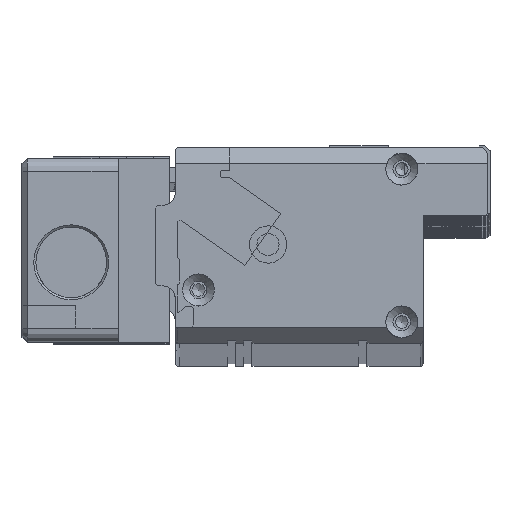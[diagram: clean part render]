
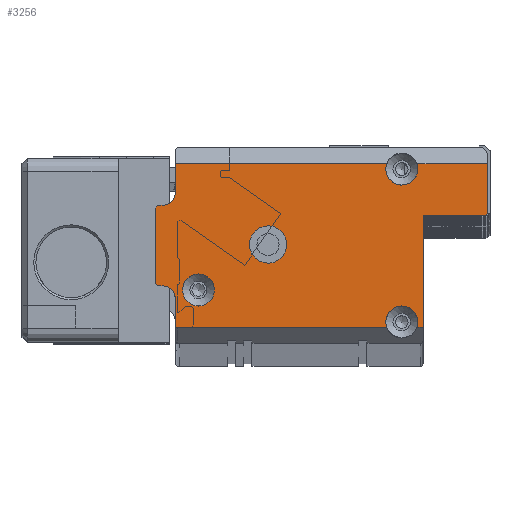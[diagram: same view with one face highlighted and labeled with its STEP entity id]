
A CAD part, top view. The second image highlights one B-rep face of the part: STEP entity #3256.
In plain terms, the highlighted planar face has unit normal (0, 0, 1).
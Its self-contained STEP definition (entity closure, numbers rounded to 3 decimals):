
#3256=ADVANCED_FACE('',(#9554,#9555,#9556),#4180,.T.);
#4180=PLANE('',#28634);
#6438=LINE('',#44470,#8942);
#6439=LINE('',#44472,#8943);
#6440=LINE('',#44476,#8944);
#6441=LINE('',#44480,#8945);
#6442=LINE('',#44482,#8946);
#6443=LINE('',#44486,#8947);
#6444=LINE('',#44488,#8948);
#6445=LINE('',#44492,#8949);
#6446=LINE('',#44496,#8950);
#6447=LINE('',#44500,#8951);
#6448=LINE('',#44504,#8952);
#6449=LINE('',#44506,#8953);
#8942=VECTOR('',#35488,1.);
#8943=VECTOR('',#35489,1.);
#8944=VECTOR('',#35492,1.);
#8945=VECTOR('',#35495,1.);
#8946=VECTOR('',#35496,1.);
#8947=VECTOR('',#35499,1.);
#8948=VECTOR('',#35500,1.);
#8949=VECTOR('',#35503,1.);
#8950=VECTOR('',#35506,1.);
#8951=VECTOR('',#35509,1.);
#8952=VECTOR('',#35512,1.);
#8953=VECTOR('',#35513,1.);
#9554=FACE_BOUND('',#10923,.T.);
#9555=FACE_BOUND('',#10924,.T.);
#9556=FACE_BOUND('',#10925,.T.);
#10923=EDGE_LOOP('',(#17842));
#10924=EDGE_LOOP('',(#17843,#17844,#17845,#17846,#17847,#17848,#17849,#17850,
#17851,#17852,#17853,#17854,#17855,#17856,#17857,#17858,#17859,#17860,#17861,
#17862));
#10925=EDGE_LOOP('',(#17863));
#17842=ORIENTED_EDGE('',*,*,#24870,.T.);
#17843=ORIENTED_EDGE('',*,*,#24871,.T.);
#17844=ORIENTED_EDGE('',*,*,#24872,.T.);
#17845=ORIENTED_EDGE('',*,*,#24873,.T.);
#17846=ORIENTED_EDGE('',*,*,#24874,.T.);
#17847=ORIENTED_EDGE('',*,*,#24875,.T.);
#17848=ORIENTED_EDGE('',*,*,#24876,.T.);
#17849=ORIENTED_EDGE('',*,*,#24877,.T.);
#17850=ORIENTED_EDGE('',*,*,#24878,.T.);
#17851=ORIENTED_EDGE('',*,*,#24879,.T.);
#17852=ORIENTED_EDGE('',*,*,#24880,.T.);
#17853=ORIENTED_EDGE('',*,*,#24881,.T.);
#17854=ORIENTED_EDGE('',*,*,#24882,.T.);
#17855=ORIENTED_EDGE('',*,*,#24883,.T.);
#17856=ORIENTED_EDGE('',*,*,#24884,.T.);
#17857=ORIENTED_EDGE('',*,*,#24885,.T.);
#17858=ORIENTED_EDGE('',*,*,#24886,.T.);
#17859=ORIENTED_EDGE('',*,*,#24887,.T.);
#17860=ORIENTED_EDGE('',*,*,#24888,.T.);
#17861=ORIENTED_EDGE('',*,*,#24889,.T.);
#17862=ORIENTED_EDGE('',*,*,#24890,.T.);
#17863=ORIENTED_EDGE('',*,*,#24891,.T.);
#21183=VERTEX_POINT('',#44466);
#21184=VERTEX_POINT('',#44468);
#21185=VERTEX_POINT('',#44469);
#21186=VERTEX_POINT('',#44471);
#21187=VERTEX_POINT('',#44473);
#21188=VERTEX_POINT('',#44475);
#21189=VERTEX_POINT('',#44477);
#21190=VERTEX_POINT('',#44479);
#21191=VERTEX_POINT('',#44481);
#21192=VERTEX_POINT('',#44483);
#21193=VERTEX_POINT('',#44485);
#21194=VERTEX_POINT('',#44487);
#21195=VERTEX_POINT('',#44489);
#21196=VERTEX_POINT('',#44491);
#21197=VERTEX_POINT('',#44493);
#21198=VERTEX_POINT('',#44495);
#21199=VERTEX_POINT('',#44497);
#21200=VERTEX_POINT('',#44499);
#21201=VERTEX_POINT('',#44501);
#21202=VERTEX_POINT('',#44503);
#21203=VERTEX_POINT('',#44505);
#21204=VERTEX_POINT('',#44508);
#24870=EDGE_CURVE('',#21183,#21183,#26319,.T.);
#24871=EDGE_CURVE('',#21184,#21185,#26320,.T.);
#24872=EDGE_CURVE('',#21185,#21186,#6438,.T.);
#24873=EDGE_CURVE('',#21186,#21187,#6439,.T.);
#24874=EDGE_CURVE('',#21187,#21188,#26321,.T.);
#24875=EDGE_CURVE('',#21188,#21189,#6440,.T.);
#24876=EDGE_CURVE('',#21189,#21190,#26322,.T.);
#24877=EDGE_CURVE('',#21190,#21191,#6441,.T.);
#24878=EDGE_CURVE('',#21191,#21192,#6442,.T.);
#24879=EDGE_CURVE('',#21192,#21193,#26323,.T.);
#24880=EDGE_CURVE('',#21193,#21194,#6443,.T.);
#24881=EDGE_CURVE('',#21194,#21195,#6444,.T.);
#24882=EDGE_CURVE('',#21195,#21196,#26324,.T.);
#24883=EDGE_CURVE('',#21196,#21197,#6445,.T.);
#24884=EDGE_CURVE('',#21197,#21198,#26325,.T.);
#24885=EDGE_CURVE('',#21198,#21199,#6446,.T.);
#24886=EDGE_CURVE('',#21199,#21200,#26326,.T.);
#24887=EDGE_CURVE('',#21200,#21201,#6447,.T.);
#24888=EDGE_CURVE('',#21201,#21202,#26327,.T.);
#24889=EDGE_CURVE('',#21202,#21203,#6448,.T.);
#24890=EDGE_CURVE('',#21203,#21184,#6449,.T.);
#24891=EDGE_CURVE('',#21204,#21204,#26328,.T.);
#26319=CIRCLE('',#28624,3.);
#26320=CIRCLE('',#28625,3.);
#26321=CIRCLE('',#28626,0.5);
#26322=CIRCLE('',#28627,0.5);
#26323=CIRCLE('',#28628,3.);
#26324=CIRCLE('',#28629,2.5);
#26325=CIRCLE('',#28630,0.5);
#26326=CIRCLE('',#28631,0.5);
#26327=CIRCLE('',#28632,2.5);
#26328=CIRCLE('',#28633,3.5);
#28624=AXIS2_PLACEMENT_3D('',#44465,#35484,#35485);
#28625=AXIS2_PLACEMENT_3D('',#44467,#35486,#35487);
#28626=AXIS2_PLACEMENT_3D('',#44474,#35490,#35491);
#28627=AXIS2_PLACEMENT_3D('',#44478,#35493,#35494);
#28628=AXIS2_PLACEMENT_3D('',#44484,#35497,#35498);
#28629=AXIS2_PLACEMENT_3D('',#44490,#35501,#35502);
#28630=AXIS2_PLACEMENT_3D('',#44494,#35504,#35505);
#28631=AXIS2_PLACEMENT_3D('',#44498,#35507,#35508);
#28632=AXIS2_PLACEMENT_3D('',#44502,#35510,#35511);
#28633=AXIS2_PLACEMENT_3D('',#44507,#35514,#35515);
#28634=AXIS2_PLACEMENT_3D('',#44509,#35516,#35517);
#35484=DIRECTION('',(0.,0.,-1.));
#35485=DIRECTION('',(-1.,0.,0.));
#35486=DIRECTION('',(0.,0.,-1.));
#35487=DIRECTION('',(-1.,0.,0.));
#35488=DIRECTION('',(1.,0.,0.));
#35489=DIRECTION('',(0.,1.,0.));
#35490=DIRECTION('',(0.,0.,-1.));
#35491=DIRECTION('',(1.,0.,0.));
#35492=DIRECTION('',(1.,0.,0.));
#35493=DIRECTION('',(0.,0.,1.));
#35494=DIRECTION('',(1.,0.,0.));
#35495=DIRECTION('',(0.,1.,0.));
#35496=DIRECTION('',(-1.,0.,0.));
#35497=DIRECTION('',(0.,0.,-1.));
#35498=DIRECTION('',(-1.,0.,0.));
#35499=DIRECTION('',(-1.,0.,0.));
#35500=DIRECTION('',(0.,-1.,0.));
#35501=DIRECTION('',(0.,0.,-1.));
#35502=DIRECTION('',(1.,0.,0.));
#35503=DIRECTION('',(-1.,0.,0.));
#35504=DIRECTION('',(0.,0.,1.));
#35505=DIRECTION('',(1.,0.,0.));
#35506=DIRECTION('',(0.,-1.,0.));
#35507=DIRECTION('',(0.,0.,1.));
#35508=DIRECTION('',(1.,0.,0.));
#35509=DIRECTION('',(1.,0.,0.));
#35510=DIRECTION('',(0.,0.,-1.));
#35511=DIRECTION('',(1.,0.,0.));
#35512=DIRECTION('',(0.,-1.,0.));
#35513=DIRECTION('',(1.,0.,0.));
#35514=DIRECTION('',(0.,0.,-1.));
#35515=DIRECTION('',(-1.,0.,0.));
#35516=DIRECTION('',(0.,0.,1.));
#35517=DIRECTION('',(-1.,0.,0.));
#44465=CARTESIAN_POINT('',(8.,-26.6,8.));
#44466=CARTESIAN_POINT('',(5.,-26.6,8.));
#44467=CARTESIAN_POINT('',(46.,-32.6,8.));
#44468=CARTESIAN_POINT('',(43.172,-33.6,8.));
#44469=CARTESIAN_POINT('',(48.828,-33.6,8.));
#44470=CARTESIAN_POINT('',(50.,-33.6,8.));
#44471=CARTESIAN_POINT('',(50.,-33.6,8.));
#44472=CARTESIAN_POINT('',(50.,-36.6,8.));
#44473=CARTESIAN_POINT('',(50.,-13.1,8.));
#44474=CARTESIAN_POINT('',(50.5,-13.1,8.));
#44475=CARTESIAN_POINT('',(50.5,-12.6,8.));
#44476=CARTESIAN_POINT('',(50.,-12.6,8.));
#44477=CARTESIAN_POINT('',(61.6,-12.6,8.));
#44478=CARTESIAN_POINT('',(61.6,-12.1,8.));
#44479=CARTESIAN_POINT('',(62.1,-12.1,8.));
#44480=CARTESIAN_POINT('',(62.1,-12.6,8.));
#44481=CARTESIAN_POINT('',(62.1,-3.,8.));
#44482=CARTESIAN_POINT('',(3.7,-3.,8.));
#44483=CARTESIAN_POINT('',(48.828,-3.,8.));
#44484=CARTESIAN_POINT('',(46.,-4.,8.));
#44485=CARTESIAN_POINT('',(43.172,-3.,8.));
#44486=CARTESIAN_POINT('',(3.7,-3.,8.));
#44487=CARTESIAN_POINT('',(3.7,-3.,8.));
#44488=CARTESIAN_POINT('',(3.7,0.,8.));
#44489=CARTESIAN_POINT('',(3.7,-8.3,8.));
#44490=CARTESIAN_POINT('',(1.2,-8.3,8.));
#44491=CARTESIAN_POINT('',(1.2,-10.8,8.));
#44492=CARTESIAN_POINT('',(3.7,-10.8,8.));
#44493=CARTESIAN_POINT('',(0.5,-10.8,8.));
#44494=CARTESIAN_POINT('',(0.5,-11.3,8.));
#44495=CARTESIAN_POINT('',(0.,-11.3,8.));
#44496=CARTESIAN_POINT('',(0.,-10.8,8.));
#44497=CARTESIAN_POINT('',(0.,-25.3,8.));
#44498=CARTESIAN_POINT('',(0.5,-25.3,8.));
#44499=CARTESIAN_POINT('',(0.5,-25.8,8.));
#44500=CARTESIAN_POINT('',(0.,-25.8,8.));
#44501=CARTESIAN_POINT('',(1.2,-25.8,8.));
#44502=CARTESIAN_POINT('',(1.2,-28.3,8.));
#44503=CARTESIAN_POINT('',(3.7,-28.3,8.));
#44504=CARTESIAN_POINT('',(3.7,-25.8,8.));
#44505=CARTESIAN_POINT('',(3.7,-33.6,8.));
#44506=CARTESIAN_POINT('',(50.,-33.6,8.));
#44507=CARTESIAN_POINT('',(21.,-18.1,8.));
#44508=CARTESIAN_POINT('',(17.5,-18.1,8.));
#44509=CARTESIAN_POINT('',(0.,0.,8.));
